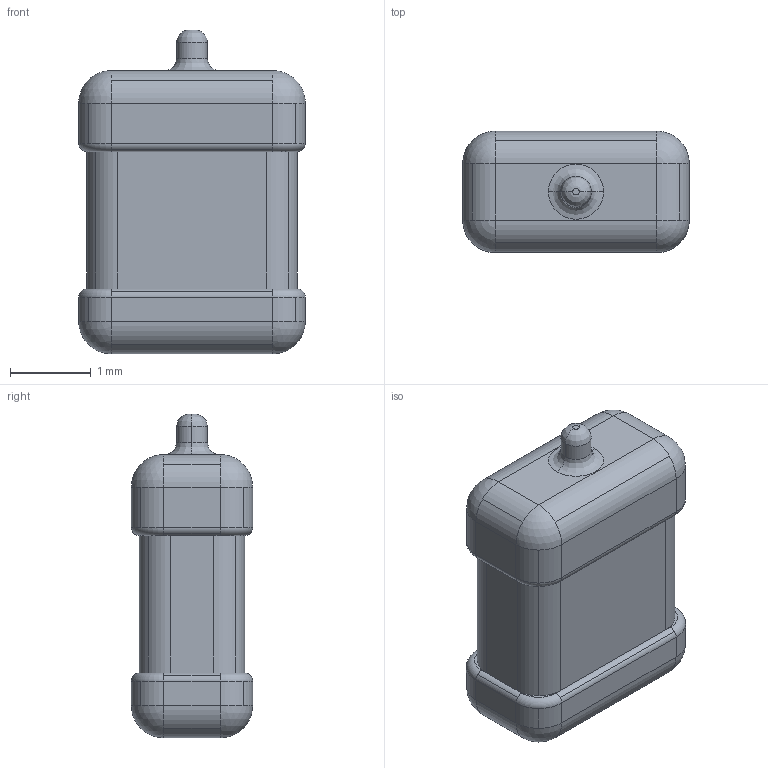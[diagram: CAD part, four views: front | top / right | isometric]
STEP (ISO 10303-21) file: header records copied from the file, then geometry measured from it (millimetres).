
FILE_DESCRIPTION((''),'2;1');
FILE_NAME('591D_B-case_15H.stp','2019-05-02T10:52:48',(''),(''),'AutoCAD STEP 2000i','AutoCAD 2000i',', , ');
FILE_SCHEMA(('CONFIG_CONTROL_DESIGN'));
Length unit declared in the file: millimetre
Products named in the file (2): 591D_B-CASE_15H; MODEL
Assembly tree (1 placements, depth 2):
  591D_B-CASE_15H
    MODEL
Bounding box: 2.8 x 1.5 x 4 mm (x, y, z)
Volume: 12.4 mm3; surface area: 33 mm2
Topology: 1 solids, 1 shells, 101 faces, 242 edges, 136 vertices
Faces by surface type: cylinder 58, plane 23, torus 8, sphere 8, bspline 4
Entity records: 3129 total; most frequent: CARTESIAN_POINT 649, DIRECTION 564, ORIENTED_EDGE 468, EDGE_CURVE 234, AXIS2_PLACEMENT_3D 231, VERTEX_POINT 136, CIRCLE 132, VECTOR 102
